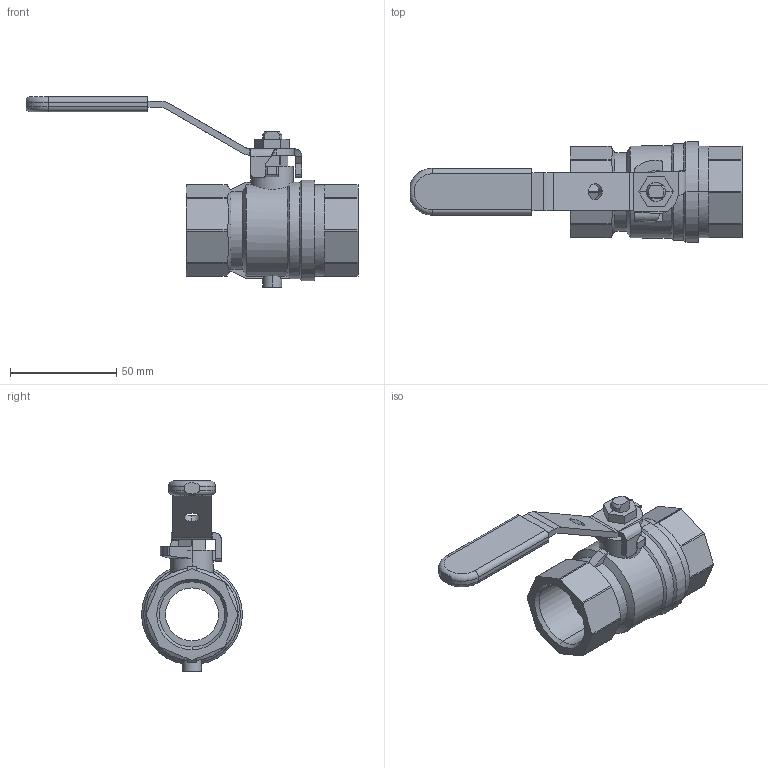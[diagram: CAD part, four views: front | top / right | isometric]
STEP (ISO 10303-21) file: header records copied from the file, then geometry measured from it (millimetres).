
FILE_DESCRIPTION((''),'2;1');
FILE_NAME('R412010531','2023-09-06T16:27:31',('THD3HC'),(''),'CREO PARAMETRIC BY PTC INC, 2020044','CREO PARAMETRIC BY PTC INC, 2020044','');
FILE_SCHEMA(('CONFIG_CONTROL_DESIGN','SHAPE_APPEARANCE_LAYERS_GROUPS'));
Length unit declared in the file: millimetre
Products named in the file (1): R412010531
Bounding box: 156.5 x 47.5 x 89.75 mm (x, y, z)
Volume: 81810 mm3; surface area: 29077.8 mm2
Topology: 1 solids, 1 shells, 195 faces, 522 edges, 337 vertices
Faces by surface type: plane 98, cylinder 65, cone 17, bspline 10, extrusion 3, torus 2
Entity records: 8979 total; most frequent: CARTESIAN_POINT 2700, ORIENTED_EDGE 1044, DIRECTION 966, EDGE_CURVE 522, AXIS2_PLACEMENT_3D 339, VERTEX_POINT 337, VECTOR 288, LINE 285
